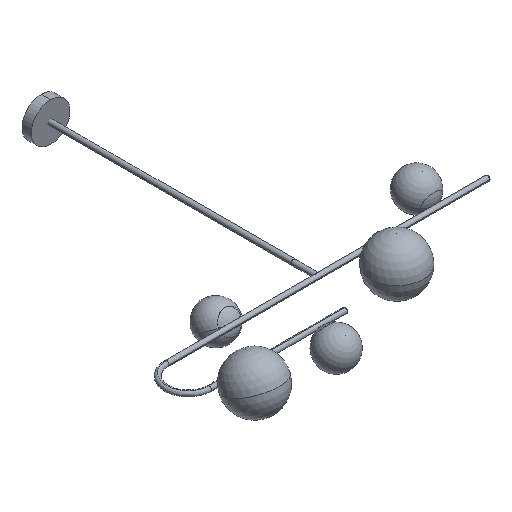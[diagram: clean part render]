
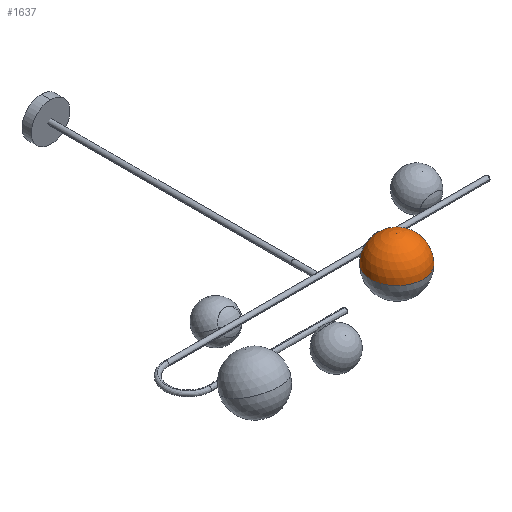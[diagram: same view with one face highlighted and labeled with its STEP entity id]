
A CAD part, isometric view. The second image highlights one B-rep face of the part: STEP entity #1637.
In plain terms, the highlighted spherical face has radius 85 mm.
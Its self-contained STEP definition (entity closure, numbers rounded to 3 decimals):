
#51 = CARTESIAN_POINT ( 'NONE',  ( 161.157, 609.297, 0. ) ) ;
#111 = FACE_OUTER_BOUND ( 'NONE', #2411, .T. ) ;
#280 = DIRECTION ( 'NONE',  ( 0., 0., -1. ) ) ;
#319 = DIRECTION ( 'NONE',  ( 1., 0., 0. ) ) ;
#342 = CIRCLE ( 'NONE', #2222, 85. ) ;
#486 = ORIENTED_EDGE ( 'NONE', *, *, #2341, .F. ) ;
#492 = DIRECTION ( 'NONE',  ( 0., -1., 0. ) ) ;
#503 = DIRECTION ( 'NONE',  ( 0., 0., -1. ) ) ;
#713 = DIRECTION ( 'NONE',  ( 0., 0., 1. ) ) ;
#804 = ORIENTED_EDGE ( 'NONE', *, *, #2405, .T. ) ;
#816 = CIRCLE ( 'NONE', #2336, 85. ) ;
#820 = CARTESIAN_POINT ( 'NONE',  ( 161.157, 524.297, 0. ) ) ;
#865 = AXIS2_PLACEMENT_3D ( 'NONE', #2413, #503, #319 ) ;
#904 = VERTEX_POINT ( 'NONE', #1968 ) ;
#1467 = SPHERICAL_SURFACE ( 'NONE', #865, 85. ) ;
#1637 = ADVANCED_FACE ( 'NONE', ( #111 ), #1467, .T. ) ;
#1963 = DIRECTION ( 'NONE',  ( 0., 1., 0. ) ) ;
#1968 = CARTESIAN_POINT ( 'NONE',  ( 161.157, 694.297, 0. ) ) ;
#2222 = AXIS2_PLACEMENT_3D ( 'NONE', #2391, #713, #492 ) ;
#2336 = AXIS2_PLACEMENT_3D ( 'NONE', #51, #280, #1963 ) ;
#2341 = EDGE_CURVE ( 'NONE', #2362, #904, #816, .T. ) ;
#2362 = VERTEX_POINT ( 'NONE', #820 ) ;
#2391 = CARTESIAN_POINT ( 'NONE',  ( 161.157, 609.297, 0. ) ) ;
#2405 = EDGE_CURVE ( 'NONE', #2362, #904, #342, .T. ) ;
#2411 = EDGE_LOOP ( 'NONE', ( #486, #804 ) ) ;
#2413 = CARTESIAN_POINT ( 'NONE',  ( 161.157, 609.297, 0. ) ) ;
